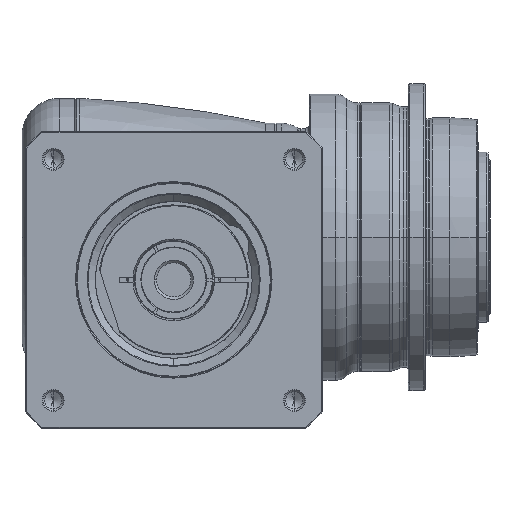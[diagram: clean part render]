
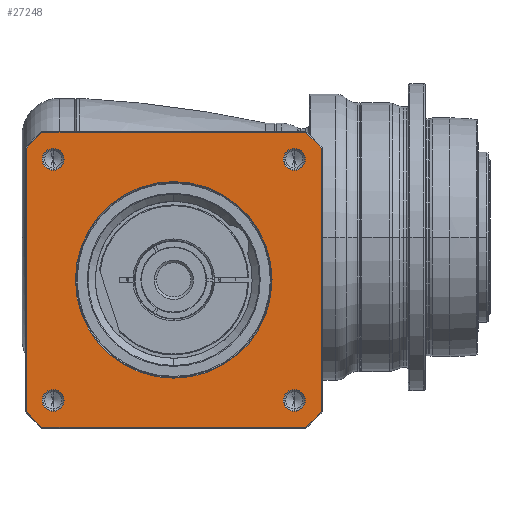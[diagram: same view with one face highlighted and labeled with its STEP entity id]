
A CAD part, front view. The second image highlights one B-rep face of the part: STEP entity #27248.
In plain terms, the highlighted planar face has unit normal (0, -1, 0) as drawn and (0, 0, 1) by its records, which use the part's own axes.
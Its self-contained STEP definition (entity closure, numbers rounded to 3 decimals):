
#25999=CARTESIAN_POINT('',(0.,0.,
76.));
#26000=DIRECTION('',(0.,0.,-1.));
#26001=DIRECTION('',(0.,-1.,0.));
#26002=AXIS2_PLACEMENT_3D('',#25999,#26000,#26001);
#26004=CARTESIAN_POINT('',(0.,0.,
76.));
#26005=DIRECTION('',(0.,0.,-1.));
#26006=DIRECTION('',(0.,1.,0.));
#26007=AXIS2_PLACEMENT_3D('',#26004,#26005,#26006);
#26009=CARTESIAN_POINT('',(0.,0.,76.));
#26010=DIRECTION('',(0.,0.,1.));
#26011=DIRECTION('',(-0.746,-0.666,0.));
#26012=AXIS2_PLACEMENT_3D('',#26009,#26010,#26011);
#26024=DIRECTION('',(1.,0.,0.));
#26025=VECTOR('',#26024,154.58);
#26026=CARTESIAN_POINT('',(-77.29,-86.5,76.));
#26027=LINE('',#26026,#26025);
#26037=CARTESIAN_POINT('',(0.,0.,76.));
#26038=DIRECTION('',(0.,0.,1.));
#26039=DIRECTION('',(0.666,-0.746,0.));
#26040=AXIS2_PLACEMENT_3D('',#26037,#26038,#26039);
#26052=DIRECTION('',(0.,1.,0.));
#26053=VECTOR('',#26052,154.58);
#26054=CARTESIAN_POINT('',(86.5,-77.29,76.));
#26055=LINE('',#26054,#26053);
#26065=CARTESIAN_POINT('',(0.,0.,76.));
#26066=DIRECTION('',(0.,0.,1.));
#26067=DIRECTION('',(0.746,0.666,0.));
#26068=AXIS2_PLACEMENT_3D('',#26065,#26066,#26067);
#26080=DIRECTION('',(-1.,0.,0.));
#26081=VECTOR('',#26080,154.58);
#26082=CARTESIAN_POINT('',(77.29,86.5,76.));
#26083=LINE('',#26082,#26081);
#26088=CARTESIAN_POINT('',(0.,0.,76.));
#26089=DIRECTION('',(0.,0.,1.));
#26090=DIRECTION('',(-0.666,0.746,0.));
#26091=AXIS2_PLACEMENT_3D('',#26088,#26089,#26090);
#26108=DIRECTION('',(0.,-1.,0.));
#26109=VECTOR('',#26108,154.58);
#26110=CARTESIAN_POINT('',(-86.5,77.29,76.));
#26111=LINE('',#26110,#26109);
#26194=CARTESIAN_POINT('',(-70.711,70.711,76.));
#26195=DIRECTION('',(0.,0.,1.));
#26196=DIRECTION('',(-1.,0.,0.));
#26197=AXIS2_PLACEMENT_3D('',#26194,#26195,#26196);
#26212=CARTESIAN_POINT('',(-70.711,70.711,76.));
#26213=DIRECTION('',(0.,0.,1.));
#26214=DIRECTION('',(1.,0.,0.));
#26215=AXIS2_PLACEMENT_3D('',#26212,#26213,#26214);
#26248=CARTESIAN_POINT('',(70.711,70.711,76.));
#26249=DIRECTION('',(0.,0.,1.));
#26250=DIRECTION('',(-1.,0.,0.));
#26251=AXIS2_PLACEMENT_3D('',#26248,#26249,#26250);
#26266=CARTESIAN_POINT('',(70.711,70.711,76.));
#26267=DIRECTION('',(0.,0.,1.));
#26268=DIRECTION('',(1.,0.,0.));
#26269=AXIS2_PLACEMENT_3D('',#26266,#26267,#26268);
#26302=CARTESIAN_POINT('',(70.711,-70.711,76.));
#26303=DIRECTION('',(0.,0.,1.));
#26304=DIRECTION('',(-1.,0.,0.));
#26305=AXIS2_PLACEMENT_3D('',#26302,#26303,#26304);
#26320=CARTESIAN_POINT('',(70.711,-70.711,76.));
#26321=DIRECTION('',(0.,0.,1.));
#26322=DIRECTION('',(1.,0.,0.));
#26323=AXIS2_PLACEMENT_3D('',#26320,#26321,#26322);
#26356=CARTESIAN_POINT('',(-70.711,-70.711,76.));
#26357=DIRECTION('',(0.,0.,1.));
#26358=DIRECTION('',(-1.,0.,0.));
#26359=AXIS2_PLACEMENT_3D('',#26356,#26357,#26358);
#26374=CARTESIAN_POINT('',(-70.711,-70.711,76.));
#26375=DIRECTION('',(0.,0.,1.));
#26376=DIRECTION('',(1.,0.,0.));
#26377=AXIS2_PLACEMENT_3D('',#26374,#26375,#26376);
#26506=CARTESIAN_POINT('',(86.5,-77.29,76.));
#26507=CARTESIAN_POINT('',(86.5,77.29,76.));
#26508=VERTEX_POINT('',#26506);
#26509=VERTEX_POINT('',#26507);
#26514=CARTESIAN_POINT('',(77.29,-86.5,76.));
#26515=VERTEX_POINT('',#26514);
#26518=CARTESIAN_POINT('',(-77.29,-86.5,76.));
#26519=VERTEX_POINT('',#26518);
#26522=CARTESIAN_POINT('',(-86.5,-77.29,76.));
#26523=VERTEX_POINT('',#26522);
#26526=CARTESIAN_POINT('',(-86.5,77.29,76.));
#26527=VERTEX_POINT('',#26526);
#26530=CARTESIAN_POINT('',(-77.29,86.5,76.));
#26531=VERTEX_POINT('',#26530);
#26534=CARTESIAN_POINT('',(77.29,86.5,76.));
#26535=VERTEX_POINT('',#26534);
#26544=CARTESIAN_POINT('',(-77.111,70.711,76.));
#26545=CARTESIAN_POINT('',(-64.311,70.711,76.));
#26546=VERTEX_POINT('',#26544);
#26547=VERTEX_POINT('',#26545);
#26570=CARTESIAN_POINT('',(77.111,70.711,76.));
#26571=CARTESIAN_POINT('',(64.311,70.711,76.));
#26572=VERTEX_POINT('',#26570);
#26573=VERTEX_POINT('',#26571);
#26578=CARTESIAN_POINT('',(77.111,-70.711,76.));
#26579=CARTESIAN_POINT('',(64.311,-70.711,76.));
#26580=VERTEX_POINT('',#26578);
#26581=VERTEX_POINT('',#26579);
#26586=CARTESIAN_POINT('',(-64.311,-70.711,76.));
#26587=CARTESIAN_POINT('',(-77.111,-70.711,76.));
#26588=VERTEX_POINT('',#26586);
#26589=VERTEX_POINT('',#26587);
#26594=CARTESIAN_POINT('',(0.,-57.65,76.));
#26595=CARTESIAN_POINT('',(0.,57.65,76.));
#26596=VERTEX_POINT('',#26594);
#26597=VERTEX_POINT('',#26595);
#27196=CARTESIAN_POINT('',(0.,0.,76.));
#27197=DIRECTION('',(0.,0.,1.));
#27198=DIRECTION('',(1.,0.,0.));
#27199=AXIS2_PLACEMENT_3D('',#27196,#27197,#27198);
#27200=PLANE('',#27199);
#27202=ORIENTED_EDGE('',*,*,#27201,.F.);
#27204=ORIENTED_EDGE('',*,*,#27203,.F.);
#27206=ORIENTED_EDGE('',*,*,#27205,.F.);
#27208=ORIENTED_EDGE('',*,*,#27207,.F.);
#27210=ORIENTED_EDGE('',*,*,#27209,.F.);
#27212=ORIENTED_EDGE('',*,*,#27211,.F.);
#27214=ORIENTED_EDGE('',*,*,#27213,.F.);
#27216=ORIENTED_EDGE('',*,*,#27215,.F.);
#27217=EDGE_LOOP('',(#27202,#27204,#27206,#27208,#27210,#27212,#27214,#27216));
#27218=FACE_OUTER_BOUND('',#27217,.F.);
#27219=ORIENTED_EDGE('',*,*,#27186,.F.);
#27221=ORIENTED_EDGE('',*,*,#27220,.F.);
#27222=EDGE_LOOP('',(#27219,#27221));
#27223=FACE_BOUND('',#27222,.F.);
#27225=ORIENTED_EDGE('',*,*,#27224,.T.);
#27227=ORIENTED_EDGE('',*,*,#27226,.T.);
#27228=EDGE_LOOP('',(#27225,#27227));
#27229=FACE_BOUND('',#27228,.F.);
#27231=ORIENTED_EDGE('',*,*,#27230,.T.);
#27233=ORIENTED_EDGE('',*,*,#27232,.T.);
#27234=EDGE_LOOP('',(#27231,#27233));
#27235=FACE_BOUND('',#27234,.F.);
#27237=ORIENTED_EDGE('',*,*,#27236,.T.);
#27239=ORIENTED_EDGE('',*,*,#27238,.T.);
#27240=EDGE_LOOP('',(#27237,#27239));
#27241=FACE_BOUND('',#27240,.F.);
#27243=ORIENTED_EDGE('',*,*,#27242,.T.);
#27245=ORIENTED_EDGE('',*,*,#27244,.T.);
#27246=EDGE_LOOP('',(#27243,#27245));
#27247=FACE_BOUND('',#27246,.F.);
#27248=ADVANCED_FACE('',(#27218,#27223,#27229,#27235,#27241,#27247),#27200,.T.);
#26003=CIRCLE('',#26002,57.65);
#26008=CIRCLE('',#26007,57.65);
#26013=CIRCLE('',#26012,116.);
#26041=CIRCLE('',#26040,116.);
#26069=CIRCLE('',#26068,116.);
#26092=CIRCLE('',#26091,116.);
#26198=CIRCLE('',#26197,6.4);
#26216=CIRCLE('',#26215,6.4);
#26252=CIRCLE('',#26251,6.4);
#26270=CIRCLE('',#26269,6.4);
#26306=CIRCLE('',#26305,6.4);
#26324=CIRCLE('',#26323,6.4);
#26360=CIRCLE('',#26359,6.4);
#26378=CIRCLE('',#26377,6.4);
#27186=EDGE_CURVE('',#26596,#26597,#26003,.T.);
#27201=EDGE_CURVE('',#26523,#26519,#26013,.T.);
#27203=EDGE_CURVE('',#26527,#26523,#26111,.T.);
#27205=EDGE_CURVE('',#26531,#26527,#26092,.T.);
#27207=EDGE_CURVE('',#26535,#26531,#26083,.T.);
#27209=EDGE_CURVE('',#26509,#26535,#26069,.T.);
#27211=EDGE_CURVE('',#26508,#26509,#26055,.T.);
#27213=EDGE_CURVE('',#26515,#26508,#26041,.T.);
#27215=EDGE_CURVE('',#26519,#26515,#26027,.T.);
#27220=EDGE_CURVE('',#26597,#26596,#26008,.T.);
#27224=EDGE_CURVE('',#26546,#26547,#26198,.T.);
#27226=EDGE_CURVE('',#26547,#26546,#26216,.T.);
#27230=EDGE_CURVE('',#26573,#26572,#26252,.T.);
#27232=EDGE_CURVE('',#26572,#26573,#26270,.T.);
#27236=EDGE_CURVE('',#26581,#26580,#26306,.T.);
#27238=EDGE_CURVE('',#26580,#26581,#26324,.T.);
#27242=EDGE_CURVE('',#26589,#26588,#26360,.T.);
#27244=EDGE_CURVE('',#26588,#26589,#26378,.T.);
